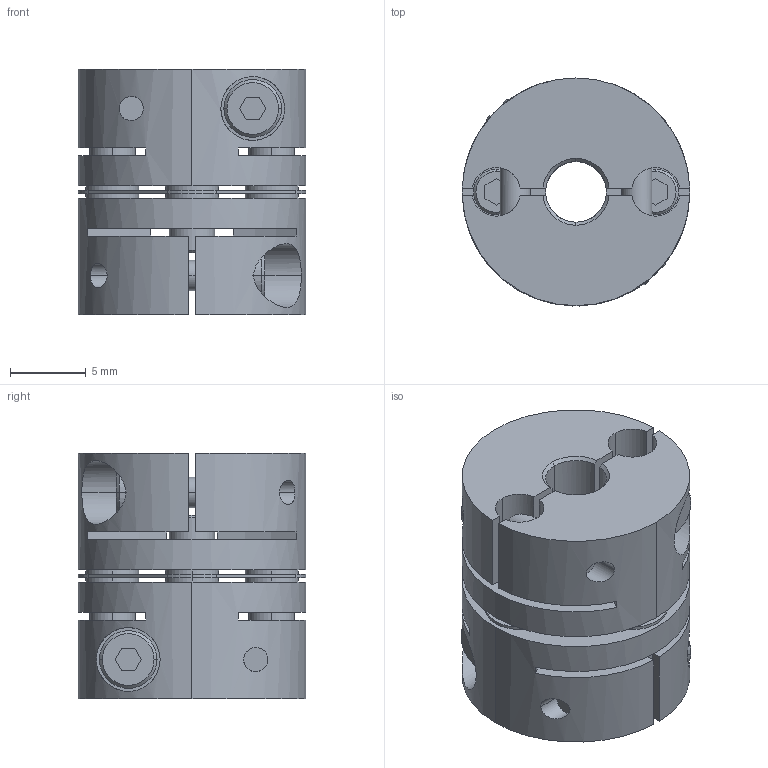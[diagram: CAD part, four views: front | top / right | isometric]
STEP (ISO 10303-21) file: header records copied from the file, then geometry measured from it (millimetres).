
FILE_DESCRIPTION((''),'2;1');
FILE_NAME('LAS-15C-4×6.stp','2016-04-21T12:32:29',(''),(''),'AutoCAD STEP 2000i','AutoCAD 2000i',', , ');
FILE_SCHEMA(('CONFIG_CONTROL_DESIGN'));
Length unit declared in the file: millimetre
Products named in the file (6): LAS-15C-3×6; 忣兜1; LA-1502-D06; LA-1502-D03-1; LA-1502-D03; LAS15-ITA
Assembly tree (5 placements, depth 2):
  LAS-15C-3×6
    忣兜1
    LA-1502-D06
    LA-1502-D03-1
    LA-1502-D03
    LAS15-ITA
Bounding box: 15 x 15 x 16.2 mm (x, y, z)
Volume: 2105.9 mm3; surface area: 2675.7 mm2
Topology: 1 solids, 1 shells, 236 faces, 624 edges, 408 vertices
Faces by surface type: plane 112, cylinder 96, cone 28
Entity records: 8169 total; most frequent: CARTESIAN_POINT 1962, DIRECTION 1304, ORIENTED_EDGE 1248, EDGE_CURVE 624, AXIS2_PLACEMENT_3D 478, VERTEX_POINT 408, VECTOR 348, LINE 348
